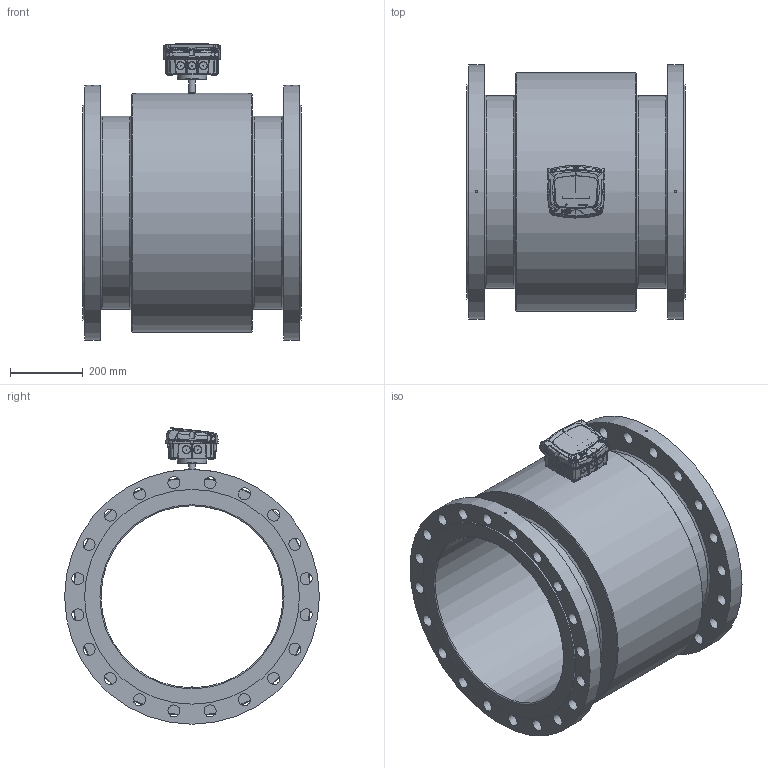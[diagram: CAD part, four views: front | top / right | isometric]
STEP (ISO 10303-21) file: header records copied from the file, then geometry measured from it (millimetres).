
FILE_DESCRIPTION((''),'2;1');
FILE_NAME('C:\Users\Claus\Dropbox\Projects 2011 - 2012\MJK Automation AS\DN 500 - ANSI B16,5.stp','2014-10-24T15:11:44',('Claus'),(''),'Autodesk Inventor 2013','Autodesk Inventor 2013','');
FILE_SCHEMA(('AUTOMOTIVE_DESIGN { 1 0 10303 214 1 1 1 1 }'));
Length unit declared in the file: millimetre
Products named in the file (7): DN 500 - ANSI B16,5; FC_MagFlux_assembly_r1; CH Bund ml; FC Top rev 06.04; CH 03.02; Electrode group DN15 - DN32
Assembly tree (8 placements, depth 3):
  DN 500 - ANSI B16,5
    DN 500 - ANSI B16,5
    FC_MagFlux_assembly_r1
      CH Bund ml
      FC Top rev 06.04
      CH 03.02
    Electrode group DN15 - DN32  x3
Bounding box: 600 x 700 x 814.34 mm (x, y, z)
Volume: 67151229.6 mm3; surface area: 3395873 mm2
Topology: 10 solids, 10 shells, 2959 faces, 8066 edges, 5251 vertices
Faces by surface type: bspline 1752, plane 810, cylinder 234, cone 123, torus 25, revolution 9, sphere 6
Full cylindrical faces by diameter (mm): 2.5 x3, 3 x6, 4 x1, 6 x2, 6.5 x4, 7.042 x4, 8 x3, 8.048 x4, 12.072 x4, 15 x1, 18 x1, 18.108 x1, 33 x40, 64 x1, 500 x1, 530 x2, 590 x2, 656 x1, 700 x2
Entity records: 234882 total; most frequent: CARTESIAN_POINT 171690, ORIENTED_EDGE 15592, DIRECTION 7901, EDGE_CURVE 7796, VERTEX_POINT 5189, EDGE_LOOP 3369, VECTOR 3112, LINE 3112
